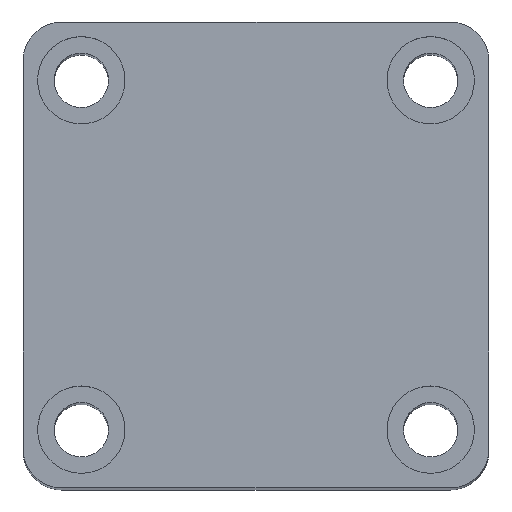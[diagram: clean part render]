
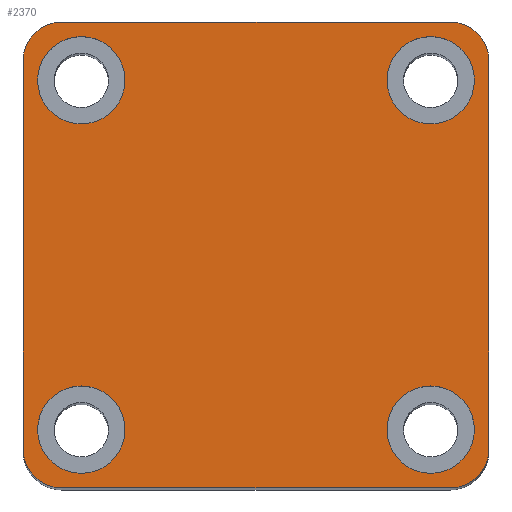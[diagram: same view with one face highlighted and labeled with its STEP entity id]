
A CAD part, top view. The second image highlights one B-rep face of the part: STEP entity #2370.
In plain terms, the highlighted planar face has unit normal (0, 0, 1).
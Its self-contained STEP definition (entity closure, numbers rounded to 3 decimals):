
#8 = VERTEX_POINT ( 'NONE', #1832 ) ;
#11 = VERTEX_POINT ( 'NONE', #1833 ) ;
#57 = VERTEX_POINT ( 'NONE', #1776 ) ;
#65 = VERTEX_POINT ( 'NONE', #1761 ) ;
#67 = VERTEX_POINT ( 'NONE', #1759 ) ;
#80 = VERTEX_POINT ( 'NONE', #1724 ) ;
#105 = VERTEX_POINT ( 'NONE', #1649 ) ;
#114 = VERTEX_POINT ( 'NONE', #1631 ) ;
#115 = VERTEX_POINT ( 'NONE', #1652 ) ;
#120 = VERTEX_POINT ( 'NONE', #1640 ) ;
#127 = VERTEX_POINT ( 'NONE', #1624 ) ;
#132 = VERTEX_POINT ( 'NONE', #1621 ) ;
#143 = VERTEX_POINT ( 'NONE', #1620 ) ;
#146 = VERTEX_POINT ( 'NONE', #1609 ) ;
#148 = VERTEX_POINT ( 'NONE', #1594 ) ;
#149 = VERTEX_POINT ( 'NONE', #1593 ) ;
#346 = DIRECTION ( 'NONE',  ( 1., 0., 0. ) ) ;
#347 = DIRECTION ( 'NONE',  ( 0., 0., 1. ) ) ;
#348 = CARTESIAN_POINT ( 'NONE',  ( 18., -18., 125. ) ) ;
#373 = DIRECTION ( 'NONE',  ( 1., 0., 0. ) ) ;
#374 = DIRECTION ( 'NONE',  ( 0., 0., 1. ) ) ;
#375 = CARTESIAN_POINT ( 'NONE',  ( 18., 18., 125. ) ) ;
#386 = DIRECTION ( 'NONE',  ( 1., 0., 0. ) ) ;
#387 = DIRECTION ( 'NONE',  ( 0., 0., 1. ) ) ;
#389 = CARTESIAN_POINT ( 'NONE',  ( -18., -18., 125. ) ) ;
#410 = DIRECTION ( 'NONE',  ( 0., 1., 0. ) ) ;
#411 = CARTESIAN_POINT ( 'NONE',  ( 24., 24., 125. ) ) ;
#416 = DIRECTION ( 'NONE',  ( 1., 0., 0. ) ) ;
#417 = DIRECTION ( 'NONE',  ( 0., 0., 1. ) ) ;
#418 = CARTESIAN_POINT ( 'NONE',  ( -18., 18., 125. ) ) ;
#567 = DIRECTION ( 'NONE',  ( 1., 0., 0. ) ) ;
#572 = PLANE ( 'NONE',  #672 ) ;
#576 = CARTESIAN_POINT ( 'NONE',  ( 0., 0., 125. ) ) ;
#582 = DIRECTION ( 'NONE',  ( 0., 0., 1. ) ) ;
#672 = AXIS2_PLACEMENT_3D ( 'NONE', #576, #582, #567 ) ;
#680 = AXIS2_PLACEMENT_3D ( 'NONE', #1734, #1731, #1730 ) ;
#681 = AXIS2_PLACEMENT_3D ( 'NONE', #1739, #1737, #1735 ) ;
#693 = AXIS2_PLACEMENT_3D ( 'NONE', #1765, #1764, #1763 ) ;
#754 = AXIS2_PLACEMENT_3D ( 'NONE', #1749, #1746, #1745 ) ;
#760 = AXIS2_PLACEMENT_3D ( 'NONE', #1754, #1751, #1750 ) ;
#763 = AXIS2_PLACEMENT_3D ( 'NONE', #1769, #1768, #1767 ) ;
#771 = AXIS2_PLACEMENT_3D ( 'NONE', #1758, #1757, #1755 ) ;
#774 = AXIS2_PLACEMENT_3D ( 'NONE', #1729, #1726, #1725 ) ;
#784 = ORIENTED_EDGE ( 'NONE', *, *, #1963, .T. ) ;
#785 = ORIENTED_EDGE ( 'NONE', *, *, #1973, .T. ) ;
#786 = ORIENTED_EDGE ( 'NONE', *, *, #2658, .T. ) ;
#787 = ORIENTED_EDGE ( 'NONE', *, *, #1974, .T. ) ;
#825 = ORIENTED_EDGE ( 'NONE', *, *, #1958, .T. ) ;
#869 = ORIENTED_EDGE ( 'NONE', *, *, #1972, .T. ) ;
#935 = CIRCLE ( 'NONE', #774, 4. ) ;
#936 = CIRCLE ( 'NONE', #680, 4. ) ;
#938 = CIRCLE ( 'NONE', #681, 4. ) ;
#942 = CIRCLE ( 'NONE', #754, 4. ) ;
#944 = CIRCLE ( 'NONE', #760, 4.5 ) ;
#945 = CIRCLE ( 'NONE', #771, 4.5 ) ;
#948 = CIRCLE ( 'NONE', #763, 4.5 ) ;
#954 = CIRCLE ( 'NONE', #693, 4.5 ) ;
#956 = VECTOR ( 'NONE', #1782, 1000. ) ;
#961 = LINE ( 'NONE', #1783, #956 ) ;
#975 = VECTOR ( 'NONE', #1792, 1000. ) ;
#980 = LINE ( 'NONE', #1793, #975 ) ;
#982 = VECTOR ( 'NONE', #1797, 1000. ) ;
#988 = LINE ( 'NONE', #1804, #982 ) ;
#1038 = ORIENTED_EDGE ( 'NONE', *, *, #1967, .F. ) ;
#1040 = ORIENTED_EDGE ( 'NONE', *, *, #2655, .F. ) ;
#1042 = ORIENTED_EDGE ( 'NONE', *, *, #1968, .F. ) ;
#1081 = EDGE_LOOP ( 'NONE', ( #1038, #1040 ) ) ;
#1086 = EDGE_LOOP ( 'NONE', ( #1394, #1395 ) ) ;
#1090 = EDGE_LOOP ( 'NONE', ( #1398, #1399, #825, #869, #784, #785, #786, #787 ) ) ;
#1091 = EDGE_LOOP ( 'NONE', ( #1396, #1397 ) ) ;
#1094 = EDGE_LOOP ( 'NONE', ( #1042, #1393 ) ) ;
#1393 = ORIENTED_EDGE ( 'NONE', *, *, #2666, .F. ) ;
#1394 = ORIENTED_EDGE ( 'NONE', *, *, #1969, .F. ) ;
#1395 = ORIENTED_EDGE ( 'NONE', *, *, #2664, .F. ) ;
#1396 = ORIENTED_EDGE ( 'NONE', *, *, #1970, .F. ) ;
#1397 = ORIENTED_EDGE ( 'NONE', *, *, #2674, .F. ) ;
#1398 = ORIENTED_EDGE ( 'NONE', *, *, #1956, .T. ) ;
#1399 = ORIENTED_EDGE ( 'NONE', *, *, #1971, .T. ) ;
#1563 = AXIS2_PLACEMENT_3D ( 'NONE', #348, #347, #346 ) ;
#1565 = AXIS2_PLACEMENT_3D ( 'NONE', #375, #374, #373 ) ;
#1567 = AXIS2_PLACEMENT_3D ( 'NONE', #389, #387, #386 ) ;
#1572 = AXIS2_PLACEMENT_3D ( 'NONE', #418, #417, #416 ) ;
#1593 = CARTESIAN_POINT ( 'NONE',  ( 20., -24., 125. ) ) ;
#1594 = CARTESIAN_POINT ( 'NONE',  ( 22.5, 18., 125. ) ) ;
#1609 = CARTESIAN_POINT ( 'NONE',  ( -20., 24., 125. ) ) ;
#1620 = CARTESIAN_POINT ( 'NONE',  ( -22.5, -18., 125. ) ) ;
#1621 = CARTESIAN_POINT ( 'NONE',  ( -20., -24., 125. ) ) ;
#1624 = CARTESIAN_POINT ( 'NONE',  ( 20., 24., 125. ) ) ;
#1631 = CARTESIAN_POINT ( 'NONE',  ( -24., 20., 125. ) ) ;
#1640 = CARTESIAN_POINT ( 'NONE',  ( 24., 20., 125. ) ) ;
#1649 = CARTESIAN_POINT ( 'NONE',  ( -13.5, 18., 125. ) ) ;
#1652 = CARTESIAN_POINT ( 'NONE',  ( 24., -20., 125. ) ) ;
#1724 = CARTESIAN_POINT ( 'NONE',  ( 13.5, 18., 125. ) ) ;
#1725 = DIRECTION ( 'NONE',  ( 1., 0., 0. ) ) ;
#1726 = DIRECTION ( 'NONE',  ( 0., 0., 1. ) ) ;
#1729 = CARTESIAN_POINT ( 'NONE',  ( 20., 20., 125. ) ) ;
#1730 = DIRECTION ( 'NONE',  ( 1., 0., 0. ) ) ;
#1731 = DIRECTION ( 'NONE',  ( 0., 0., 1. ) ) ;
#1734 = CARTESIAN_POINT ( 'NONE',  ( 20., -20., 125. ) ) ;
#1735 = DIRECTION ( 'NONE',  ( 1., 0., 0. ) ) ;
#1737 = DIRECTION ( 'NONE',  ( 0., 0., 1. ) ) ;
#1739 = CARTESIAN_POINT ( 'NONE',  ( -20., -20., 125. ) ) ;
#1745 = DIRECTION ( 'NONE',  ( 1., 0., 0. ) ) ;
#1746 = DIRECTION ( 'NONE',  ( 0., 0., 1. ) ) ;
#1749 = CARTESIAN_POINT ( 'NONE',  ( -20., 20., 125. ) ) ;
#1750 = DIRECTION ( 'NONE',  ( 1., 0., 0. ) ) ;
#1751 = DIRECTION ( 'NONE',  ( 0., 0., 1. ) ) ;
#1754 = CARTESIAN_POINT ( 'NONE',  ( 18., -18., 125. ) ) ;
#1755 = DIRECTION ( 'NONE',  ( 1., 0., 0. ) ) ;
#1757 = DIRECTION ( 'NONE',  ( 0., 0., 1. ) ) ;
#1758 = CARTESIAN_POINT ( 'NONE',  ( -18., -18., 125. ) ) ;
#1759 = CARTESIAN_POINT ( 'NONE',  ( 13.5, -18., 125. ) ) ;
#1761 = CARTESIAN_POINT ( 'NONE',  ( -22.5, 18., 125. ) ) ;
#1763 = DIRECTION ( 'NONE',  ( 1., 0., 0. ) ) ;
#1764 = DIRECTION ( 'NONE',  ( 0., 0., 1. ) ) ;
#1765 = CARTESIAN_POINT ( 'NONE',  ( 18., 18., 125. ) ) ;
#1767 = DIRECTION ( 'NONE',  ( 1., 0., 0. ) ) ;
#1768 = DIRECTION ( 'NONE',  ( 0., 0., 1. ) ) ;
#1769 = CARTESIAN_POINT ( 'NONE',  ( -18., 18., 125. ) ) ;
#1776 = CARTESIAN_POINT ( 'NONE',  ( -24., -20., 125. ) ) ;
#1782 = DIRECTION ( 'NONE',  ( 1., 0., 0. ) ) ;
#1783 = CARTESIAN_POINT ( 'NONE',  ( -24., -24., 125. ) ) ;
#1792 = DIRECTION ( 'NONE',  ( 0., -1., 0. ) ) ;
#1793 = CARTESIAN_POINT ( 'NONE',  ( -24., 24., 125. ) ) ;
#1797 = DIRECTION ( 'NONE',  ( -1., 0., 0. ) ) ;
#1804 = CARTESIAN_POINT ( 'NONE',  ( -24., 24., 125. ) ) ;
#1832 = CARTESIAN_POINT ( 'NONE',  ( -13.5, -18., 125. ) ) ;
#1833 = CARTESIAN_POINT ( 'NONE',  ( 22.5, -18., 125. ) ) ;
#1956 = EDGE_CURVE ( 'NONE', #127, #146, #988, .T. ) ;
#1958 = EDGE_CURVE ( 'NONE', #114, #57, #980, .T. ) ;
#1963 = EDGE_CURVE ( 'NONE', #132, #149, #961, .T. ) ;
#1967 = EDGE_CURVE ( 'NONE', #105, #65, #948, .T. ) ;
#1968 = EDGE_CURVE ( 'NONE', #148, #80, #954, .T. ) ;
#1969 = EDGE_CURVE ( 'NONE', #8, #143, #945, .T. ) ;
#1970 = EDGE_CURVE ( 'NONE', #11, #67, #944, .T. ) ;
#1971 = EDGE_CURVE ( 'NONE', #146, #114, #942, .T. ) ;
#1972 = EDGE_CURVE ( 'NONE', #57, #132, #938, .T. ) ;
#1973 = EDGE_CURVE ( 'NONE', #149, #115, #936, .T. ) ;
#1974 = EDGE_CURVE ( 'NONE', #120, #127, #935, .T. ) ;
#2370 = ADVANCED_FACE ( 'NONE', ( #2546, #2536, #2538, #2537, #2540 ), #572, .T. ) ;
#2447 = CIRCLE ( 'NONE', #1563, 4.5 ) ;
#2461 = CIRCLE ( 'NONE', #1565, 4.5 ) ;
#2468 = CIRCLE ( 'NONE', #1567, 4.5 ) ;
#2472 = VECTOR ( 'NONE', #410, 1000. ) ;
#2475 = LINE ( 'NONE', #411, #2472 ) ;
#2480 = CIRCLE ( 'NONE', #1572, 4.5 ) ;
#2536 = FACE_BOUND ( 'NONE', #1094, .T. ) ;
#2537 = FACE_BOUND ( 'NONE', #1091, .T. ) ;
#2538 = FACE_BOUND ( 'NONE', #1086, .T. ) ;
#2540 = FACE_OUTER_BOUND ( 'NONE', #1090, .T. ) ;
#2546 = FACE_BOUND ( 'NONE', #1081, .T. ) ;
#2655 = EDGE_CURVE ( 'NONE', #65, #105, #2480, .T. ) ;
#2658 = EDGE_CURVE ( 'NONE', #115, #120, #2475, .T. ) ;
#2664 = EDGE_CURVE ( 'NONE', #143, #8, #2468, .T. ) ;
#2666 = EDGE_CURVE ( 'NONE', #80, #148, #2461, .T. ) ;
#2674 = EDGE_CURVE ( 'NONE', #67, #11, #2447, .T. ) ;
